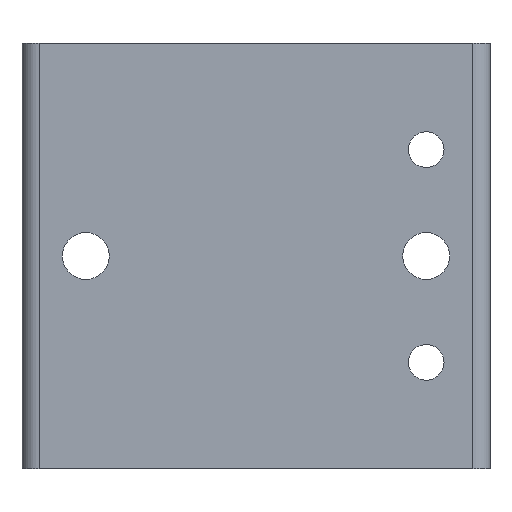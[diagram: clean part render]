
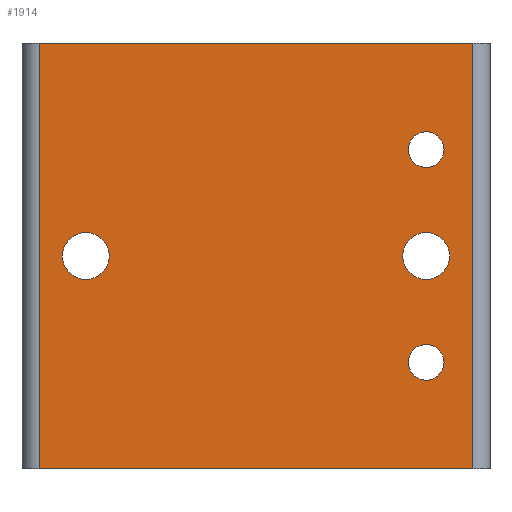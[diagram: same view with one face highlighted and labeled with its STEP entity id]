
A CAD part, left-side view. The second image highlights one B-rep face of the part: STEP entity #1914.
In plain terms, the highlighted planar face has unit normal (-1, 0, 0).
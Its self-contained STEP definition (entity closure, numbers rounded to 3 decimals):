
#9 = EDGE_LOOP ( 'NONE', ( #2107, #1993 ) ) ;
#29 = EDGE_CURVE ( 'NONE', #530, #1946, #402, .T. ) ;
#45 = EDGE_CURVE ( 'NONE', #2112, #410, #453, .T. ) ;
#46 = EDGE_CURVE ( 'NONE', #2091, #127, #458, .T. ) ;
#92 = VERTEX_POINT ( 'NONE', #714 ) ;
#109 = EDGE_CURVE ( 'NONE', #92, #1946, #809, .T. ) ;
#121 = ORIENTED_EDGE ( 'NONE', *, *, #2052, .T. ) ;
#127 = VERTEX_POINT ( 'NONE', #930 ) ;
#145 = EDGE_CURVE ( 'NONE', #269, #2086, #1031, .T. ) ;
#178 = ORIENTED_EDGE ( 'NONE', *, *, #2139, .T. ) ;
#216 = EDGE_LOOP ( 'NONE', ( #2148, #941 ) ) ;
#219 = EDGE_CURVE ( 'NONE', #743, #1484, #1492, .T. ) ;
#269 = VERTEX_POINT ( 'NONE', #1708 ) ;
#402 = LINE ( 'NONE', #403, #404 ) ;
#403 = CARTESIAN_POINT ( 'NONE',  ( -15., 28., -25. ) ) ;
#404 = VECTOR ( 'NONE', #405, 1000. ) ;
#405 = DIRECTION ( 'NONE',  ( 0., -1., 0. ) ) ;
#410 = VERTEX_POINT ( 'NONE', #690 ) ;
#453 = CIRCLE ( 'NONE', #454, 2.75 ) ;
#454 = AXIS2_PLACEMENT_3D ( 'NONE', #455, #456, #457 ) ;
#455 = CARTESIAN_POINT ( 'NONE',  ( -15., -17.5, 0. ) ) ;
#456 = DIRECTION ( 'NONE',  ( 1., 0., 0. ) ) ;
#457 = DIRECTION ( 'NONE',  ( 0., 1., 0. ) ) ;
#458 = CIRCLE ( 'NONE', #459, 2.1 ) ;
#459 = AXIS2_PLACEMENT_3D ( 'NONE', #460, #461, #462 ) ;
#460 = CARTESIAN_POINT ( 'NONE',  ( -15., -17.5, -12.5 ) ) ;
#461 = DIRECTION ( 'NONE',  ( 1., 0., 0. ) ) ;
#462 = DIRECTION ( 'NONE',  ( 0., 1., 0. ) ) ;
#530 = VERTEX_POINT ( 'NONE', #779 ) ;
#540 = FACE_BOUND ( 'NONE', #216, .T. ) ;
#541 = FACE_BOUND ( 'NONE', #2127, .T. ) ;
#542 = FACE_BOUND ( 'NONE', #1047, .T. ) ;
#543 = FACE_BOUND ( 'NONE', #9, .T. ) ;
#544 = FACE_OUTER_BOUND ( 'NONE', #1803, .T. ) ;
#545 = PLANE ( 'NONE',  #546 ) ;
#546 = AXIS2_PLACEMENT_3D ( 'NONE', #547, #549, #550 ) ;
#547 = CARTESIAN_POINT ( 'NONE',  ( -15., 28., 25. ) ) ;
#549 = DIRECTION ( 'NONE',  ( 1., 0., 0. ) ) ;
#550 = DIRECTION ( 'NONE',  ( 0., 1., 0. ) ) ;
#689 = CARTESIAN_POINT ( 'NONE',  ( -15., 28., 25. ) ) ;
#690 = CARTESIAN_POINT ( 'NONE',  ( -15., -20.25, 0. ) ) ;
#700 = CARTESIAN_POINT ( 'NONE',  ( -15., -23., -25. ) ) ;
#714 = CARTESIAN_POINT ( 'NONE',  ( -15., -23., 25. ) ) ;
#743 = VERTEX_POINT ( 'NONE', #901 ) ;
#779 = CARTESIAN_POINT ( 'NONE',  ( -15., 28., -25. ) ) ;
#809 = LINE ( 'NONE', #810, #813 ) ;
#810 = CARTESIAN_POINT ( 'NONE',  ( -15., -23., 25. ) ) ;
#813 = VECTOR ( 'NONE', #814, 1000. ) ;
#814 = DIRECTION ( 'NONE',  ( 0., 0., -1. ) ) ;
#901 = CARTESIAN_POINT ( 'NONE',  ( -15., -17.5, 14.6 ) ) ;
#930 = CARTESIAN_POINT ( 'NONE',  ( -15., -17.5, -10.4 ) ) ;
#941 = ORIENTED_EDGE ( 'NONE', *, *, #1995, .T. ) ;
#955 = CIRCLE ( 'NONE', #956, 2.1 ) ;
#956 = AXIS2_PLACEMENT_3D ( 'NONE', #957, #958, #960 ) ;
#957 = CARTESIAN_POINT ( 'NONE',  ( -15., -17.5, -12.5 ) ) ;
#958 = DIRECTION ( 'NONE',  ( 1., 0., 0. ) ) ;
#960 = DIRECTION ( 'NONE',  ( 0., 1., 0. ) ) ;
#1031 = CIRCLE ( 'NONE', #1032, 2.75 ) ;
#1032 = AXIS2_PLACEMENT_3D ( 'NONE', #1033, #1034, #1035 ) ;
#1033 = CARTESIAN_POINT ( 'NONE',  ( -15., 22.5, 0. ) ) ;
#1034 = DIRECTION ( 'NONE',  ( 1., 0., 0. ) ) ;
#1035 = DIRECTION ( 'NONE',  ( 0., 1., 0. ) ) ;
#1047 = EDGE_LOOP ( 'NONE', ( #1752, #2047 ) ) ;
#1078 = CIRCLE ( 'NONE', #1079, 2.75 ) ;
#1079 = AXIS2_PLACEMENT_3D ( 'NONE', #1080, #1083, #1084 ) ;
#1080 = CARTESIAN_POINT ( 'NONE',  ( -15., -17.5, 0. ) ) ;
#1083 = DIRECTION ( 'NONE',  ( 1., 0., 0. ) ) ;
#1084 = DIRECTION ( 'NONE',  ( 0., 1., 0. ) ) ;
#1128 = CIRCLE ( 'NONE', #1129, 2.75 ) ;
#1129 = AXIS2_PLACEMENT_3D ( 'NONE', #1130, #1131, #1132 ) ;
#1130 = CARTESIAN_POINT ( 'NONE',  ( -15., 22.5, 0. ) ) ;
#1131 = DIRECTION ( 'NONE',  ( 1., 0., 0. ) ) ;
#1132 = DIRECTION ( 'NONE',  ( 0., 1., 0. ) ) ;
#1203 = CARTESIAN_POINT ( 'NONE',  ( -15., -17.5, 10.4 ) ) ;
#1260 = EDGE_CURVE ( 'NONE', #2086, #269, #1128, .T. ) ;
#1271 = LINE ( 'NONE', #1272, #1273 ) ;
#1272 = CARTESIAN_POINT ( 'NONE',  ( -15., 28., 25. ) ) ;
#1273 = VECTOR ( 'NONE', #1274, 1000. ) ;
#1274 = DIRECTION ( 'NONE',  ( 0., 0., -1. ) ) ;
#1484 = VERTEX_POINT ( 'NONE', #1203 ) ;
#1492 = CIRCLE ( 'NONE', #1493, 2.1 ) ;
#1493 = AXIS2_PLACEMENT_3D ( 'NONE', #1494, #1495, #1496 ) ;
#1494 = CARTESIAN_POINT ( 'NONE',  ( -15., -17.5, 12.5 ) ) ;
#1495 = DIRECTION ( 'NONE',  ( 1., 0., 0. ) ) ;
#1496 = DIRECTION ( 'NONE',  ( 0., 1., 0. ) ) ;
#1514 = LINE ( 'NONE', #1515, #1516 ) ;
#1515 = CARTESIAN_POINT ( 'NONE',  ( -15., 28., 25. ) ) ;
#1516 = VECTOR ( 'NONE', #1517, 1000. ) ;
#1517 = DIRECTION ( 'NONE',  ( 0., -1., 0. ) ) ;
#1570 = CARTESIAN_POINT ( 'NONE',  ( -15., 19.75, 0. ) ) ;
#1600 = CARTESIAN_POINT ( 'NONE',  ( -15., -17.5, -14.6 ) ) ;
#1680 = CARTESIAN_POINT ( 'NONE',  ( -15., -14.75, 0. ) ) ;
#1708 = CARTESIAN_POINT ( 'NONE',  ( -15., 25.25, 0. ) ) ;
#1744 = CIRCLE ( 'NONE', #1745, 2.1 ) ;
#1745 = AXIS2_PLACEMENT_3D ( 'NONE', #1746, #1747, #1748 ) ;
#1746 = CARTESIAN_POINT ( 'NONE',  ( -15., -17.5, 12.5 ) ) ;
#1747 = DIRECTION ( 'NONE',  ( 1., 0., 0. ) ) ;
#1748 = DIRECTION ( 'NONE',  ( 0., 1., 0. ) ) ;
#1752 = ORIENTED_EDGE ( 'NONE', *, *, #145, .T. ) ;
#1803 = EDGE_LOOP ( 'NONE', ( #1889, #1834, #1862, #121 ) ) ;
#1834 = ORIENTED_EDGE ( 'NONE', *, *, #109, .F. ) ;
#1862 = ORIENTED_EDGE ( 'NONE', *, *, #2082, .F. ) ;
#1889 = ORIENTED_EDGE ( 'NONE', *, *, #29, .T. ) ;
#1914 = ADVANCED_FACE ( 'NONE', ( #540, #541, #542, #543, #544 ), #545, .F. ) ;
#1943 = VERTEX_POINT ( 'NONE', #689 ) ;
#1946 = VERTEX_POINT ( 'NONE', #700 ) ;
#1993 = ORIENTED_EDGE ( 'NONE', *, *, #2014, .T. ) ;
#1995 = EDGE_CURVE ( 'NONE', #127, #2091, #955, .T. ) ;
#2014 = EDGE_CURVE ( 'NONE', #410, #2112, #1078, .T. ) ;
#2047 = ORIENTED_EDGE ( 'NONE', *, *, #1260, .T. ) ;
#2052 = EDGE_CURVE ( 'NONE', #1943, #530, #1271, .T. ) ;
#2082 = EDGE_CURVE ( 'NONE', #1943, #92, #1514, .T. ) ;
#2086 = VERTEX_POINT ( 'NONE', #1570 ) ;
#2091 = VERTEX_POINT ( 'NONE', #1600 ) ;
#2098 = ORIENTED_EDGE ( 'NONE', *, *, #219, .T. ) ;
#2107 = ORIENTED_EDGE ( 'NONE', *, *, #45, .T. ) ;
#2112 = VERTEX_POINT ( 'NONE', #1680 ) ;
#2127 = EDGE_LOOP ( 'NONE', ( #178, #2098 ) ) ;
#2139 = EDGE_CURVE ( 'NONE', #1484, #743, #1744, .T. ) ;
#2148 = ORIENTED_EDGE ( 'NONE', *, *, #46, .T. ) ;
